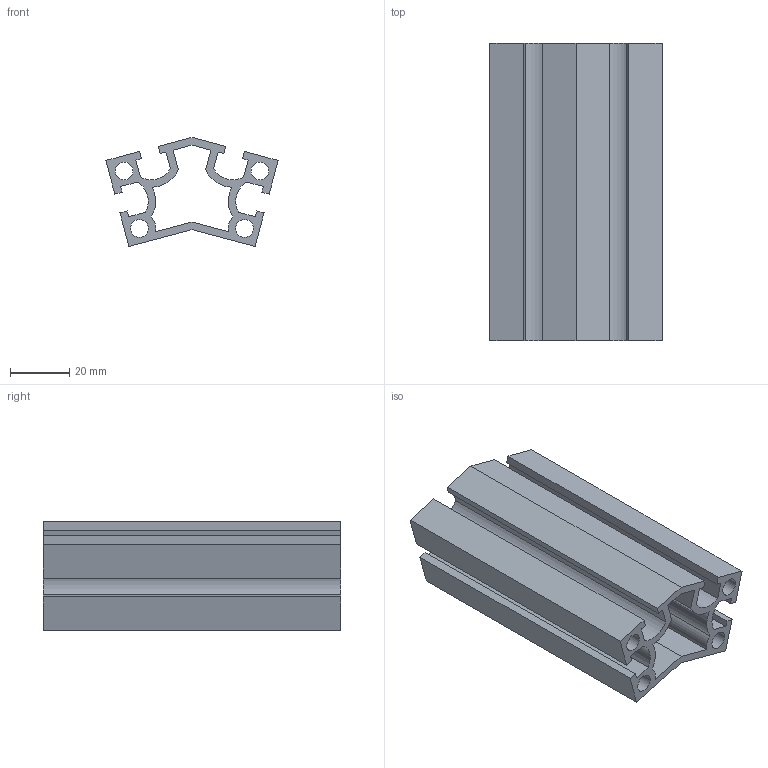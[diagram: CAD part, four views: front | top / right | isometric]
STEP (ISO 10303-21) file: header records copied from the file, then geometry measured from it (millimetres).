
FILE_DESCRIPTION(/* description */ ('Unknown'),/* implementation_level */ '2;1');
FILE_NAME(/* name */ 'NMW30150',/* time_stamp */ '2026-08-31T11:26:14+08:00',/* author */ ('Unknown'),/* organization */ ('Unknown'),/* preprocessor_version */ 'ST-DEVELOPER v16.7',/* originating_system */ 'DEX',/* authorisation */ $);
FILE_SCHEMA (('AUTOMOTIVE_DESIGN {1 0 10303 214 3 1 1}'));
Length unit declared in the file: millimetre
Products named in the file (1): W30150-
Bounding box: 57.96 x 100 x 36.74 mm (x, y, z)
Volume: 56803.2 mm3; surface area: 46038.3 mm2
Topology: 1 solids, 1 shells, 56 faces, 166 edges, 112 vertices
Faces by surface type: plane 42, cylinder 14
Full cylindrical faces by diameter (mm): 6 x4
Entity records: 1864 total; most frequent: CARTESIAN_POINT 323, ORIENTED_EDGE 316, DIRECTION 300, EDGE_CURVE 158, LINE 130, VECTOR 130, VERTEX_POINT 108, AXIS2_PLACEMENT_3D 85
